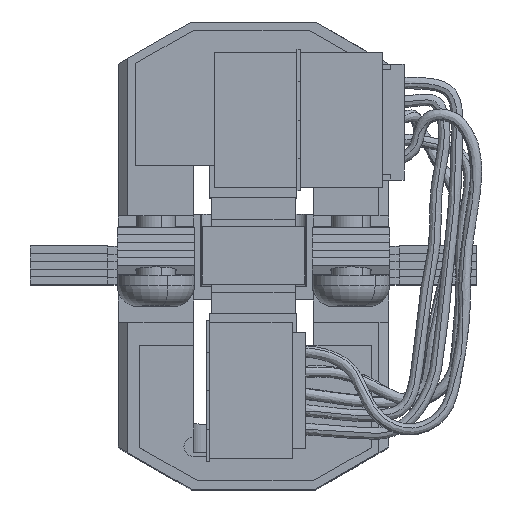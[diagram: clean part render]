
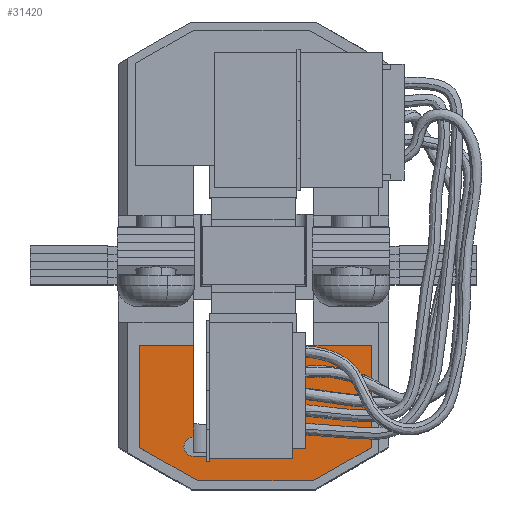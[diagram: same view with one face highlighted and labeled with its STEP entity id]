
A CAD part, top view. The second image highlights one B-rep face of the part: STEP entity #31420.
In plain terms, the highlighted planar face has unit normal (0, 0, 1).
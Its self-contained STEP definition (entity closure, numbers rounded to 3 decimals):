
#341 = VECTOR ( 'NONE', #24210, 1000. ) ;
#758 = EDGE_CURVE ( 'NONE', #12939, #1479, #49995, .T. ) ;
#828 = CARTESIAN_POINT ( 'NONE',  ( -3.097, -4.65, 43.9 ) ) ;
#1479 = VERTEX_POINT ( 'NONE', #23488 ) ;
#1974 = VECTOR ( 'NONE', #40877, 1000. ) ;
#2874 = CARTESIAN_POINT ( 'NONE',  ( 6.103, -11.65, 43.9 ) ) ;
#3062 = DIRECTION ( 'NONE',  ( -1., 0., 0. ) ) ;
#3508 = LINE ( 'NONE', #4298, #26718 ) ;
#4298 = CARTESIAN_POINT ( 'NONE',  ( -3.097, -10.4, 43.9 ) ) ;
#4870 = ORIENTED_EDGE ( 'NONE', *, *, #36594, .F. ) ;
#5243 = CARTESIAN_POINT ( 'NONE',  ( -5.897, -9.95, 43.9 ) ) ;
#5518 = EDGE_CURVE ( 'NONE', #12499, #27080, #3508, .T. ) ;
#5853 = CARTESIAN_POINT ( 'NONE',  ( 6.103, -11.65, 43.9 ) ) ;
#6870 = ORIENTED_EDGE ( 'NONE', *, *, #758, .T. ) ;
#7597 = EDGE_CURVE ( 'NONE', #42235, #38054, #20490, .T. ) ;
#7997 = VECTOR ( 'NONE', #8185, 1000. ) ;
#8136 = AXIS2_PLACEMENT_3D ( 'NONE', #22511, #49714, #26427 ) ;
#8185 = DIRECTION ( 'NONE',  ( -1., 0., 0. ) ) ;
#8420 = ORIENTED_EDGE ( 'NONE', *, *, #30390, .F. ) ;
#9026 = EDGE_LOOP ( 'NONE', ( #9484, #4870, #9160, #40735, #31578, #47436, #26145, #6870, #28069, #10688, #10737, #8420, #39060 ) ) ;
#9160 = ORIENTED_EDGE ( 'NONE', *, *, #7597, .T. ) ;
#9484 = ORIENTED_EDGE ( 'NONE', *, *, #35472, .F. ) ;
#10179 = CARTESIAN_POINT ( 'NONE',  ( 3.103, -11.65, 43.9 ) ) ;
#10688 = ORIENTED_EDGE ( 'NONE', *, *, #12879, .T. ) ;
#10737 = ORIENTED_EDGE ( 'NONE', *, *, #19256, .T. ) ;
#11107 = LINE ( 'NONE', #44828, #1974 ) ;
#11882 = LINE ( 'NONE', #15161, #31371 ) ;
#12499 = VERTEX_POINT ( 'NONE', #16039 ) ;
#12879 = EDGE_CURVE ( 'NONE', #28119, #14763, #18440, .T. ) ;
#12939 = VERTEX_POINT ( 'NONE', #16059 ) ;
#13297 = LINE ( 'NONE', #5243, #29120 ) ;
#13704 = PLANE ( 'NONE',  #29599 ) ;
#14763 = VERTEX_POINT ( 'NONE', #21791 ) ;
#14798 = CARTESIAN_POINT ( 'NONE',  ( -2.897, -11.65, 43.9 ) ) ;
#14806 = DIRECTION ( 'NONE',  ( -1., 0., 0. ) ) ;
#15161 = CARTESIAN_POINT ( 'NONE',  ( -5.897, -11.65, 43.9 ) ) ;
#16039 = CARTESIAN_POINT ( 'NONE',  ( -3.097, -10.4, 43.9 ) ) ;
#16059 = CARTESIAN_POINT ( 'NONE',  ( -3.597, -9.9, 43.9 ) ) ;
#16396 = AXIS2_PLACEMENT_3D ( 'NONE', #49724, #26437, #3062 ) ;
#18388 = CARTESIAN_POINT ( 'NONE',  ( -1.597, -9.4, 43.9 ) ) ;
#18440 = LINE ( 'NONE', #43161, #7997 ) ;
#19256 = EDGE_CURVE ( 'NONE', #14763, #23644, #11882, .T. ) ;
#20490 = LINE ( 'NONE', #32040, #29586 ) ;
#20503 = DIRECTION ( 'NONE',  ( -1., 0., 0. ) ) ;
#20953 = DIRECTION ( 'NONE',  ( -0.87, 0.493, 0. ) ) ;
#21554 = DIRECTION ( 'NONE',  ( 0., 0., -1. ) ) ;
#21791 = CARTESIAN_POINT ( 'NONE',  ( -5.897, -4.65, 43.9 ) ) ;
#22027 = LINE ( 'NONE', #36067, #32346 ) ;
#22474 = DIRECTION ( 'NONE',  ( -0.87, -0.493, 0. ) ) ;
#22477 = CARTESIAN_POINT ( 'NONE',  ( -3.097, -9.9, 43.9 ) ) ;
#22511 = CARTESIAN_POINT ( 'NONE',  ( -3.097, -9.9, 43.9 ) ) ;
#23322 = VERTEX_POINT ( 'NONE', #10179 ) ;
#23461 = VECTOR ( 'NONE', #22474, 1000. ) ;
#23488 = CARTESIAN_POINT ( 'NONE',  ( -3.097, -9.4, 43.9 ) ) ;
#23644 = VERTEX_POINT ( 'NONE', #39463 ) ;
#24210 = DIRECTION ( 'NONE',  ( 0., -1., 0. ) ) ;
#24675 = VECTOR ( 'NONE', #14806, 1000. ) ;
#24731 = AXIS2_PLACEMENT_3D ( 'NONE', #22477, #49680, #26395 ) ;
#24941 = CARTESIAN_POINT ( 'NONE',  ( 6.103, -9.95, 43.9 ) ) ;
#25192 = CARTESIAN_POINT ( 'NONE',  ( 6.103, -4.65, 43.9 ) ) ;
#26145 = ORIENTED_EDGE ( 'NONE', *, *, #30611, .T. ) ;
#26395 = DIRECTION ( 'NONE',  ( -1., 0., 0. ) ) ;
#26427 = DIRECTION ( 'NONE',  ( -1., 0., 0. ) ) ;
#26437 = DIRECTION ( 'NONE',  ( 0., 0., -1. ) ) ;
#26520 = VERTEX_POINT ( 'NONE', #14798 ) ;
#26718 = VECTOR ( 'NONE', #39388, 1000. ) ;
#27080 = VERTEX_POINT ( 'NONE', #45274 ) ;
#28069 = ORIENTED_EDGE ( 'NONE', *, *, #49638, .F. ) ;
#28119 = VERTEX_POINT ( 'NONE', #47731 ) ;
#29120 = VECTOR ( 'NONE', #20953, 1000. ) ;
#29245 = EDGE_CURVE ( 'NONE', #42430, #38054, #22027, .T. ) ;
#29586 = VECTOR ( 'NONE', #20503, 1000. ) ;
#29599 = AXIS2_PLACEMENT_3D ( 'NONE', #5853, #21554, #48801 ) ;
#30390 = EDGE_CURVE ( 'NONE', #26520, #23644, #13297, .T. ) ;
#30611 = EDGE_CURVE ( 'NONE', #12499, #12939, #32729, .T. ) ;
#31371 = VECTOR ( 'NONE', #38676, 1000. ) ;
#31420 = ADVANCED_FACE ( 'NONE', ( #35100 ), #13704, .F. ) ;
#31578 = ORIENTED_EDGE ( 'NONE', *, *, #37122, .T. ) ;
#32040 = CARTESIAN_POINT ( 'NONE',  ( 6.103, -4.65, 43.9 ) ) ;
#32346 = VECTOR ( 'NONE', #43741, 1000. ) ;
#32729 = CIRCLE ( 'NONE', #24731, 0.5 ) ;
#34995 = LINE ( 'NONE', #2874, #24675 ) ;
#35100 = FACE_OUTER_BOUND ( 'NONE', #9026, .T. ) ;
#35472 = EDGE_CURVE ( 'NONE', #49078, #23322, #42967, .T. ) ;
#36067 = CARTESIAN_POINT ( 'NONE',  ( -1.597, -10.4, 43.9 ) ) ;
#36594 = EDGE_CURVE ( 'NONE', #42235, #49078, #11107, .T. ) ;
#37122 = EDGE_CURVE ( 'NONE', #42430, #27080, #41518, .T. ) ;
#38054 = VERTEX_POINT ( 'NONE', #40094 ) ;
#38676 = DIRECTION ( 'NONE',  ( 0., -1., 0. ) ) ;
#39060 = ORIENTED_EDGE ( 'NONE', *, *, #47674, .F. ) ;
#39388 = DIRECTION ( 'NONE',  ( 1., 0., 0. ) ) ;
#39463 = CARTESIAN_POINT ( 'NONE',  ( -5.897, -9.95, 43.9 ) ) ;
#40094 = CARTESIAN_POINT ( 'NONE',  ( -1.597, -4.65, 43.9 ) ) ;
#40735 = ORIENTED_EDGE ( 'NONE', *, *, #29245, .F. ) ;
#40877 = DIRECTION ( 'NONE',  ( 0., -1., 0. ) ) ;
#41518 = CIRCLE ( 'NONE', #16396, 0.5 ) ;
#42235 = VERTEX_POINT ( 'NONE', #25192 ) ;
#42430 = VERTEX_POINT ( 'NONE', #18388 ) ;
#42967 = LINE ( 'NONE', #45802, #23461 ) ;
#43161 = CARTESIAN_POINT ( 'NONE',  ( 6.103, -4.65, 43.9 ) ) ;
#43741 = DIRECTION ( 'NONE',  ( 0., 1., 0. ) ) ;
#44828 = CARTESIAN_POINT ( 'NONE',  ( 6.103, -11.65, 43.9 ) ) ;
#45274 = CARTESIAN_POINT ( 'NONE',  ( -1.597, -10.4, 43.9 ) ) ;
#45506 = LINE ( 'NONE', #828, #341 ) ;
#45802 = CARTESIAN_POINT ( 'NONE',  ( 6.103, -9.95, 43.9 ) ) ;
#47436 = ORIENTED_EDGE ( 'NONE', *, *, #5518, .F. ) ;
#47674 = EDGE_CURVE ( 'NONE', #23322, #26520, #34995, .T. ) ;
#47731 = CARTESIAN_POINT ( 'NONE',  ( -3.097, -4.65, 43.9 ) ) ;
#48801 = DIRECTION ( 'NONE',  ( -1., 0., 0. ) ) ;
#49078 = VERTEX_POINT ( 'NONE', #24941 ) ;
#49638 = EDGE_CURVE ( 'NONE', #28119, #1479, #45506, .T. ) ;
#49680 = DIRECTION ( 'NONE',  ( 0., 0., -1. ) ) ;
#49714 = DIRECTION ( 'NONE',  ( 0., 0., -1. ) ) ;
#49724 = CARTESIAN_POINT ( 'NONE',  ( -1.597, -9.9, 43.9 ) ) ;
#49995 = CIRCLE ( 'NONE', #8136, 0.5 ) ;
